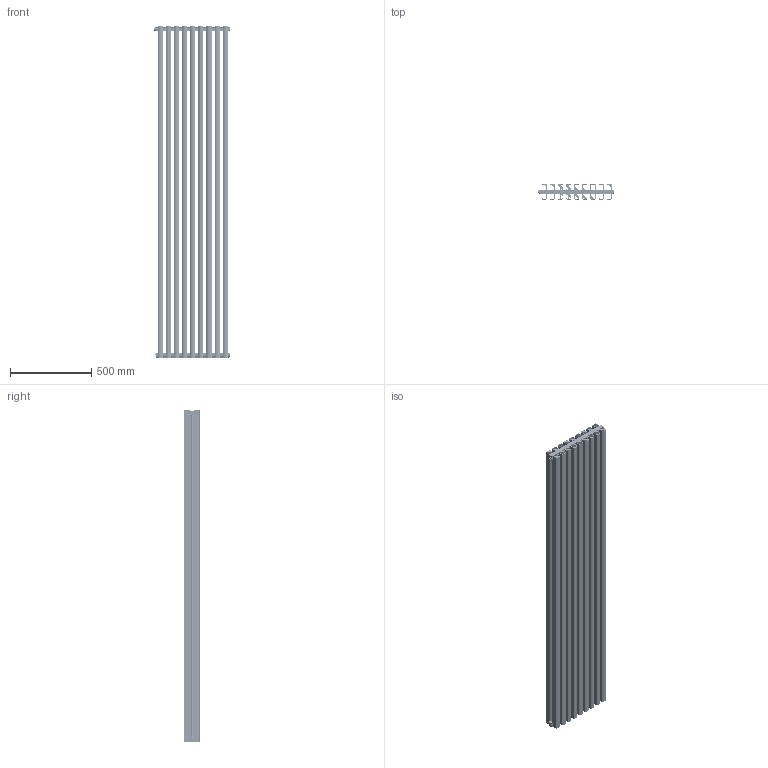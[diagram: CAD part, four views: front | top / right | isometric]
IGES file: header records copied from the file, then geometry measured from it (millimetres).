
Start section: SolidWorks IGES file using analytic representation for surfaces
Global section: file name: S:\RicercaSviluppo\01_DISEGNI\2_DISEGNI\02_ELEMENTI\39_TONALE\39_99_RICHIESTE CLIENTI\39_99_DRL\22-07-24\TONALE 2000_9.IGS; native system: SolidWorks 2024; preprocessor: SolidWorks 2024; author: massimo; date: 240722.104249; units: millimetre
Bounding box: 466.3 x 95 x 2039.3 mm (x, y, z)
Surface area: 13245060.8 mm2 (no closed solid volume)
Topology: 0 solids, 0 shells, 5467 faces, 66674 edges, 66566 vertices
Faces by surface type: revolution 2826, bspline 2641
